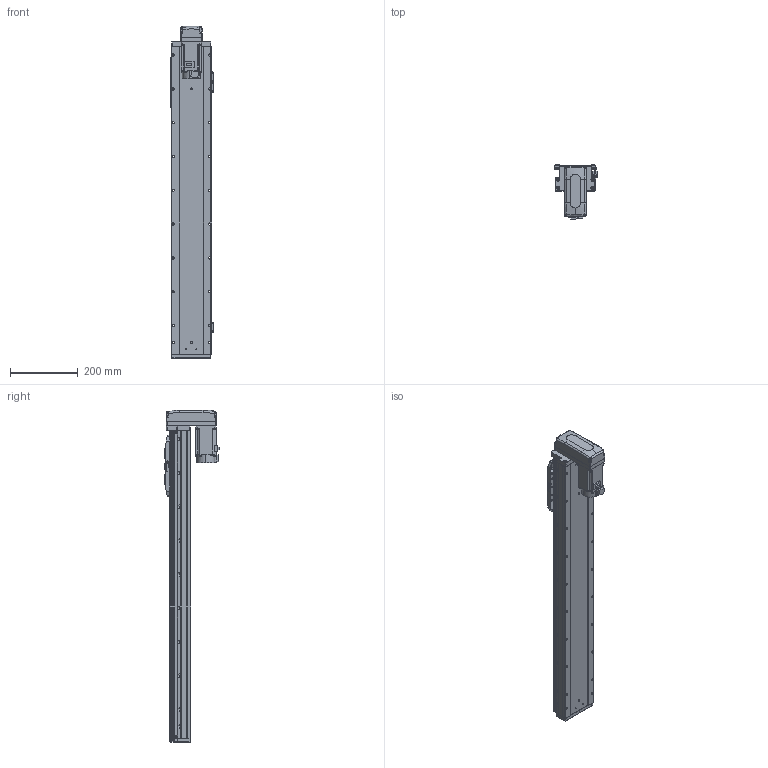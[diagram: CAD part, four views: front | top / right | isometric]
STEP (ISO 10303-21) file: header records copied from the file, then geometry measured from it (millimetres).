
FILE_DESCRIPTION (( 'STEP AP203' ), '1' );
FILE_NAME ('GTH12-700-BM-M40-C4.step', '2022-09-29T02:02:21', ( '微软用户' ), ( '微软中国' ), 'SwSTEP 2.0', 'SolidWorks 2020', '' );
FILE_SCHEMA (( 'CONFIG_CONTROL_DESIGN' ));
Length unit declared in the file: millimetre
Products named in the file (18): GTH120-004; GTH50-023; GTH12-700-BM-M40-C4; GTH120-013; GTH50-024; GBT 70.1-M3℅6; GBT96.1-2002 3×0.8; GBT 70.1-M5×16; BTH-M3X5X6; GTH120-001_700; GBT 70.3-M3℅8; hg-kn43j_-s100_; GTH120-003; GTH80-022; CTHA86-033_M40B; GTH120-006; GTH80-028; GTH120-027-1_GTH120-027-2
Assembly tree (59 placements, depth 2):
  GTH12-700-BM-M40-C4
    GTH120-001_700
    GTH120-003
    GTH120-006
    GTH120-004
    GTH120-013
    GBT 70.1-M3℅6  x14
    GBT 70.1-M5×16  x10
    GBT 70.3-M3℅8  x4
    GTH80-022
    GTH80-028  x2
    GTH50-023  x3
    GTH50-024  x3
    GBT96.1-2002 3×0.8  x6
    BTH-M3X5X6  x8
    hg-kn43j_-s100_
    CTHA86-033_M40B
    GTH120-027-1_GTH120-027-2
Bounding box: 125.7 x 159.8 x 982 mm (x, y, z)
Volume: 7186879.6 mm3; surface area: 651411.8 mm2
Topology: 61 solids, 61 shells, 2474 faces, 5777 edges, 3545 vertices
Faces by surface type: plane 1270, cylinder 720, cone 296, torus 174, sphere 8, bspline 6
Entity records: 46575 total; most frequent: CARTESIAN_POINT 7926, DIRECTION 7713, ORIENTED_EDGE 7164, EDGE_CURVE 3582, AXIS2_PLACEMENT_3D 2697, VECTOR 2319, LINE 2319, VERTEX_POINT 2266
